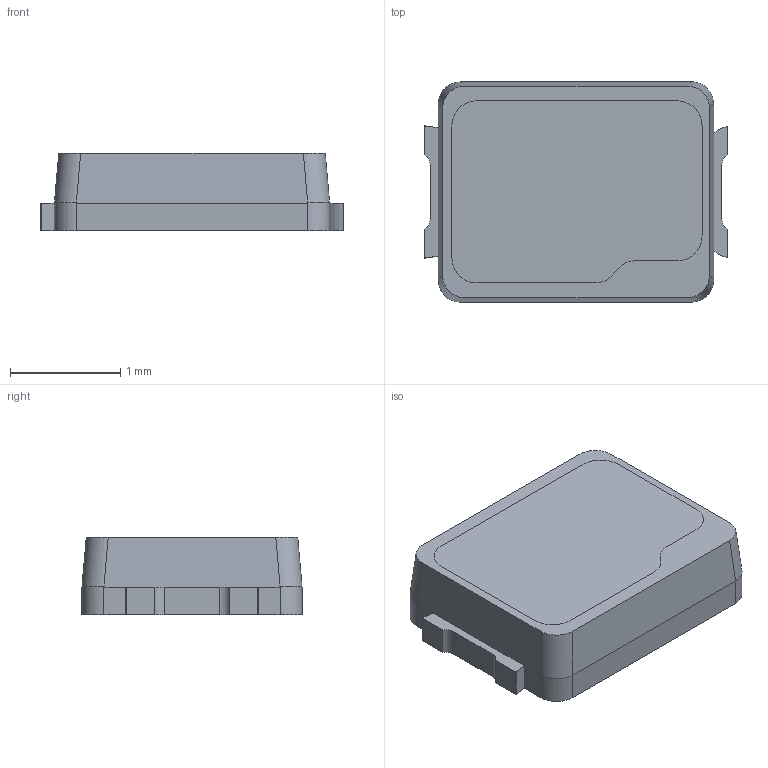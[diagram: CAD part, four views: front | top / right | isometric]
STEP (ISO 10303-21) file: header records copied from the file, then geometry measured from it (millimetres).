
FILE_DESCRIPTION (( 'STEP AP214' ), '1' );
FILE_NAME ('LWMB.STEP', '2025-03-22T10:32:59', ( '' ), ( '' ), 'SwSTEP 2.0', 'SolidWorks 2022', '' );
FILE_SCHEMA (( 'AUTOMOTIVE_DESIGN' ));
Length unit declared in the file: millimetre
Products named in the file (1): LWMB
Bounding box: 2.75 x 2 x 0.7 mm (x, y, z)
Volume: 3.5 mm3; surface area: 27 mm2
Topology: 3 solids, 3 shells, 171 faces, 492 edges, 328 vertices
Faces by surface type: plane 113, cylinder 58
Entity records: 5741 total; most frequent: CARTESIAN_POINT 1266, ORIENTED_EDGE 984, DIRECTION 824, EDGE_CURVE 492, LINE 364, VECTOR 364, VERTEX_POINT 328, AXIS2_PLACEMENT_3D 230
